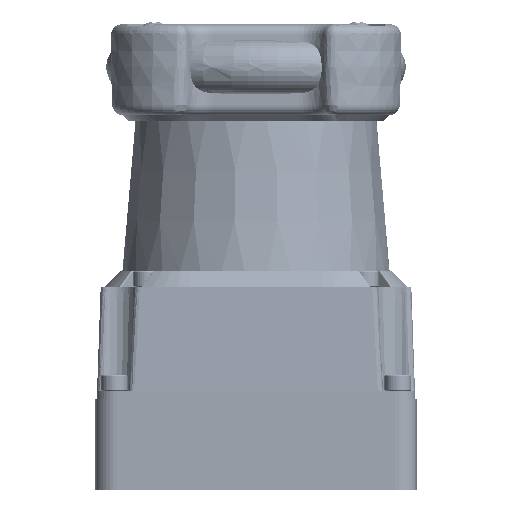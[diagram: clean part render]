
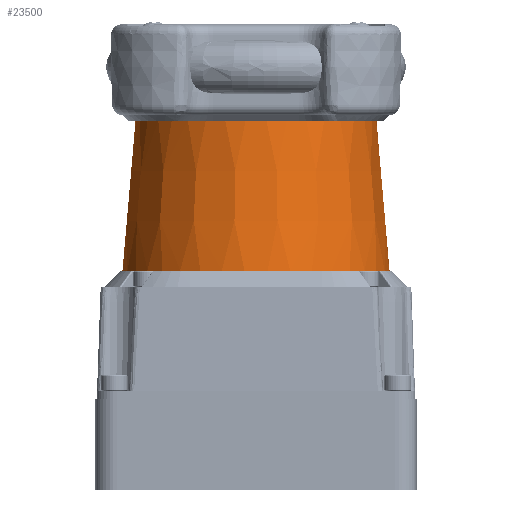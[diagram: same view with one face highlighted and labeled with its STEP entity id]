
A CAD part, front view. The second image highlights one B-rep face of the part: STEP entity #23500.
In plain terms, the highlighted conical face has half-angle 5 degrees and reference radius 25 mm.
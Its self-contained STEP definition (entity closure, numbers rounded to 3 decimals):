
#229=(
BOUNDED_CURVE()
B_SPLINE_CURVE(2,(#36372,#36373,#36374),.UNSPECIFIED.,.F.,.F.)
B_SPLINE_CURVE_WITH_KNOTS((3,3),(0.,2.811),.UNSPECIFIED.)
CURVE()
GEOMETRIC_REPRESENTATION_ITEM()
RATIONAL_B_SPLINE_CURVE((1.,1.001,1.))
REPRESENTATION_ITEM('')
);
#230=(
BOUNDED_CURVE()
B_SPLINE_CURVE(2,(#36846,#36847,#36848),.UNSPECIFIED.,.F.,.F.)
B_SPLINE_CURVE_WITH_KNOTS((3,3),(0.,2.811),.UNSPECIFIED.)
CURVE()
GEOMETRIC_REPRESENTATION_ITEM()
RATIONAL_B_SPLINE_CURVE((1.,1.001,1.))
REPRESENTATION_ITEM('')
);
#580=CONICAL_SURFACE('',#25166,25.,0.087);
#6837=FACE_OUTER_BOUND('',#8234,.T.);
#8234=EDGE_LOOP('',(#18513,#18514,#18515,#18516));
#9429=CIRCLE('',#25037,22.55);
#9497=CIRCLE('',#25153,25.);
#10944=VERTEX_POINT('',#36335);
#10945=VERTEX_POINT('',#36337);
#10949=VERTEX_POINT('',#36371);
#11027=VERTEX_POINT('',#36818);
#13623=EDGE_CURVE('',#10945,#10944,#9429,.T.);
#13629=EDGE_CURVE('',#10945,#10949,#229,.T.);
#13752=EDGE_CURVE('',#10949,#11027,#9497,.T.);
#13765=EDGE_CURVE('',#11027,#10944,#230,.T.);
#18513=ORIENTED_EDGE('',*,*,#13765,.F.);
#18514=ORIENTED_EDGE('',*,*,#13752,.F.);
#18515=ORIENTED_EDGE('',*,*,#13629,.F.);
#18516=ORIENTED_EDGE('',*,*,#13623,.T.);
#23500=ADVANCED_FACE('',(#6837),#580,.T.);
#25037=AXIS2_PLACEMENT_3D('',#36338,#28953,#28954);
#25153=AXIS2_PLACEMENT_3D('',#36819,#29217,#29218);
#25166=AXIS2_PLACEMENT_3D('',#36845,#29250,#29251);
#28953=DIRECTION('center_axis',(0.,0.,-1.));
#28954=DIRECTION('ref_axis',(-1.,0.,0.));
#29217=DIRECTION('center_axis',(0.,0.,-1.));
#29218=DIRECTION('ref_axis',(-1.,0.,0.));
#29250=DIRECTION('center_axis',(0.,0.,-1.));
#29251=DIRECTION('ref_axis',(-1.,0.,0.));
#36335=CARTESIAN_POINT('',(-6.875,21.477,69.));
#36337=CARTESIAN_POINT('',(6.875,21.477,69.));
#36338=CARTESIAN_POINT('Origin',(0.,0.,69.));
#36371=CARTESIAN_POINT('',(7.44,23.867,41.));
#36372=CARTESIAN_POINT('Ctrl Pts',(6.875,21.477,69.));
#36373=CARTESIAN_POINT('Ctrl Pts',(7.142,22.609,55.738));
#36374=CARTESIAN_POINT('Ctrl Pts',(7.44,23.867,41.));
#36818=CARTESIAN_POINT('',(-7.44,23.867,41.));
#36819=CARTESIAN_POINT('Origin',(0.,0.,41.));
#36845=CARTESIAN_POINT('Origin',(0.,0.,41.));
#36846=CARTESIAN_POINT('Ctrl Pts',(-7.44,23.867,41.));
#36847=CARTESIAN_POINT('Ctrl Pts',(-7.142,22.609,55.738));
#36848=CARTESIAN_POINT('Ctrl Pts',(-6.875,21.477,69.));
